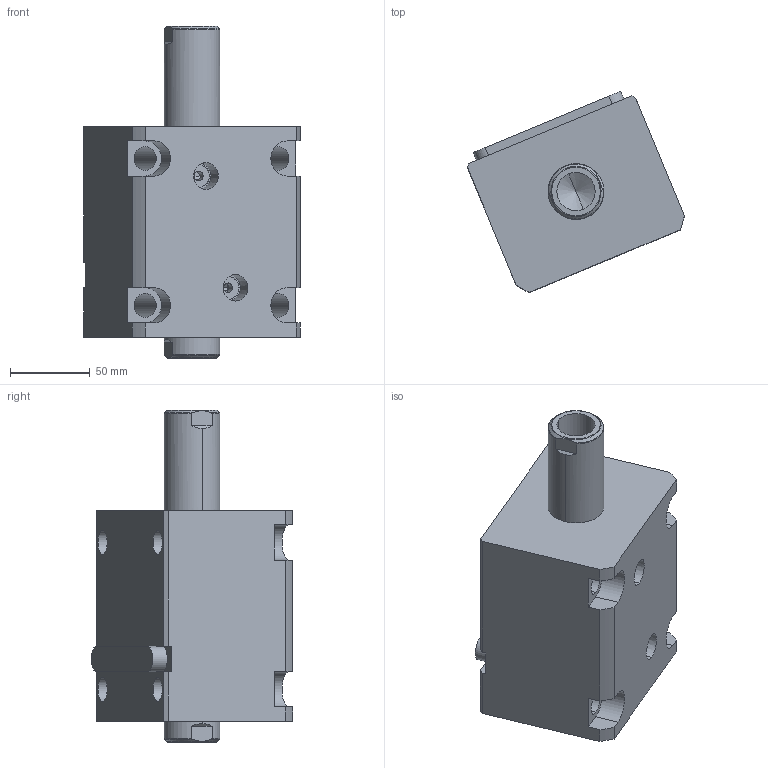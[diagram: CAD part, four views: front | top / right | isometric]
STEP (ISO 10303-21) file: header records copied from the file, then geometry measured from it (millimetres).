
FILE_DESCRIPTION (( 'STEP AP214' ), '1' );
FILE_NAME ('chtb-lw63x50n_asm.STEP', '2018-05-03T07:37:21', ( 'Windows' ), ( 'Microsoft' ), 'SwSTEP 2.0', 'SolidWorks 2015', '' );
FILE_SCHEMA (( 'AUTOMOTIVE_DESIGN' ));
Length unit declared in the file: millimetre
Products named in the file (5): CHTB-SW63X50NHSG; CHTB-LW63X50NBT; CHTB-LA63PJ; CHTB-63QG; chtb-lw63x50n_asm
Assembly tree (4 placements, depth 2):
  chtb-lw63x50n_asm
    CHTB-63QG
    CHTB-LA63PJ
    CHTB-LW63X50NBT
    CHTB-SW63X50NHSG
Bounding box: 135.77 x 126.06 x 208 mm (x, y, z)
Volume: 1203349.4 mm3; surface area: 171381.9 mm2
Topology: 4 solids, 4 shells, 194 faces, 563 edges, 381 vertices
Faces by surface type: cylinder 104, plane 50, cone 16, bspline 12, torus 12
Entity records: 18887 total; most frequent: CARTESIAN_POINT 13868, ORIENTED_EDGE 1110, DIRECTION 876, EDGE_CURVE 555, VERTEX_POINT 381, AXIS2_PLACEMENT_3D 336, EDGE_LOOP 222, VECTOR 204
